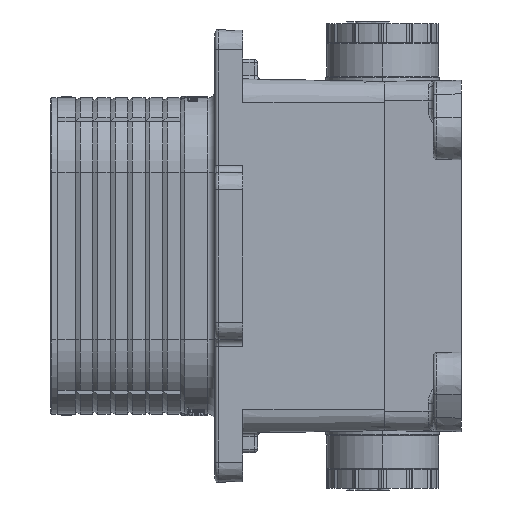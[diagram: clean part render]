
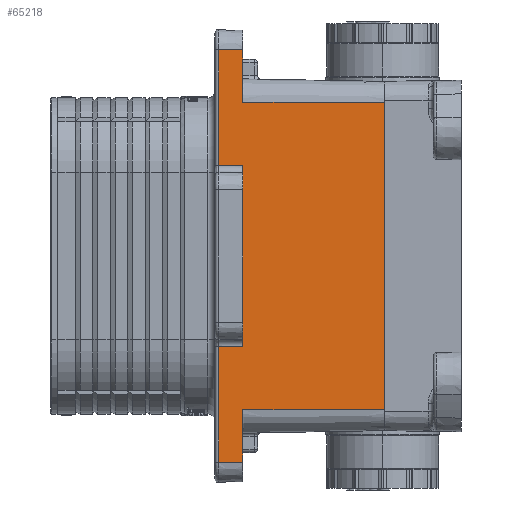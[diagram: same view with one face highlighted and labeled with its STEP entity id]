
A CAD part, left-side view. The second image highlights one B-rep face of the part: STEP entity #65218.
In plain terms, the highlighted planar face has unit normal (-1, -0.018, 0).
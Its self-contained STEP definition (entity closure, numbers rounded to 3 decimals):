
#4541=CARTESIAN_POINT('',(-30.,16.251,
-44.));
#4543=DIRECTION('',(0.,0.,1.));
#4544=VECTOR('',#4543,88.);
#4545=CARTESIAN_POINT('',(-30.,16.251,
-44.));
#4546=LINE('',#4545,#4544);
#4614=DIRECTION('',(-0.017,1.,0.));
#4615=VECTOR('',#4614,40.506);
#4616=CARTESIAN_POINT('',(-30.,16.251,
-44.));
#4617=LINE('',#4616,#4615);
#6167=DIRECTION('',(0.,0.,-1.));
#6168=VECTOR('',#6167,15.);
#6169=CARTESIAN_POINT('',(-30.707,56.751,59.));
#6170=LINE('',#6169,#6168);
#6213=DIRECTION('',(0.017,-1.,0.));
#6214=VECTOR('',#6213,6.984);
#6215=CARTESIAN_POINT('',(-30.829,63.734,
-59.));
#6216=LINE('',#6215,#6214);
#6217=DIRECTION('',(0.,0.,1.));
#6218=VECTOR('',#6217,33.018);
#6219=CARTESIAN_POINT('',(-30.829,63.734,
-59.));
#6220=LINE('',#6219,#6218);
#6221=DIRECTION('',(0.017,-1.,0.017));
#6222=VECTOR('',#6221,6.985);
#6223=CARTESIAN_POINT('',(-30.829,63.734,
-25.982));
#6224=LINE('',#6223,#6222);
#6225=DIRECTION('',(0.017,-1.,-0.017));
#6226=VECTOR('',#6225,5.502);
#6227=CARTESIAN_POINT('',(-30.803,62.251,
-20.869));
#6228=LINE('',#6227,#6226);
#6229=DIRECTION('',(0.017,-1.,0.017));
#6230=VECTOR('',#6229,5.502);
#6231=CARTESIAN_POINT('',(-30.803,62.251,20.869));
#6232=LINE('',#6231,#6230);
#6233=DIRECTION('',(-0.017,1.,0.017));
#6234=VECTOR('',#6233,6.985);
#6235=CARTESIAN_POINT('',(-30.707,56.751,25.86));
#6236=LINE('',#6235,#6234);
#6237=DIRECTION('',(0.,0.,1.));
#6238=VECTOR('',#6237,33.018);
#6239=CARTESIAN_POINT('',(-30.829,63.733,25.982));
#6240=LINE('',#6239,#6238);
#6241=DIRECTION('',(0.017,-1.,0.));
#6242=VECTOR('',#6241,6.984);
#6243=CARTESIAN_POINT('',(-30.829,63.733,59.));
#6244=LINE('',#6243,#6242);
#6245=DIRECTION('',(-0.017,1.,0.));
#6246=VECTOR('',#6245,40.506);
#6247=CARTESIAN_POINT('',(-30.,16.251,44.));
#6248=LINE('',#6247,#6246);
#6262=DIRECTION('',(0.,0.,1.));
#6263=VECTOR('',#6262,15.);
#6264=CARTESIAN_POINT('',(-30.707,56.751,
-59.));
#6265=LINE('',#6264,#6263);
#29585=CARTESIAN_POINT('',(-30.829,63.733,
25.982));
#29587=CARTESIAN_POINT('',(-30.707,56.751,
25.86));
#29601=DIRECTION('',(0.,0.,-1.));
#29602=VECTOR('',#29601,4.9);
#29603=CARTESIAN_POINT('',(-30.707,56.751,
-20.96));
#29604=LINE('',#29603,#29602);
#29619=DIRECTION('',(0.,0.,-1.));
#29620=VECTOR('',#29619,4.9);
#29621=CARTESIAN_POINT('',(-30.707,56.751,
25.86));
#29622=LINE('',#29621,#29620);
#30040=DIRECTION('',(0.,0.,-1.));
#30041=VECTOR('',#30040,41.737);
#30042=CARTESIAN_POINT('',(-30.803,62.251,
20.869));
#30043=LINE('',#30042,#30041);
#30075=CARTESIAN_POINT('',(-30.707,56.751,
-25.86));
#51262=CARTESIAN_POINT('',(-30.707,56.751,
-44.));
#51264=VERTEX_POINT('',#51262);
#52386=CARTESIAN_POINT('',(-30.707,56.751,
-59.));
#52388=VERTEX_POINT('',#52386);
#52430=CARTESIAN_POINT('',(-30.707,56.751,
59.));
#52432=VERTEX_POINT('',#52430);
#52433=CARTESIAN_POINT('',(-30.707,56.751,
44.));
#52434=VERTEX_POINT('',#52433);
#52670=VERTEX_POINT('',#29587);
#52671=VERTEX_POINT('',#30075);
#52718=CARTESIAN_POINT('',(-30.803,62.251,
20.869));
#52719=CARTESIAN_POINT('',(-30.707,56.751,
20.961));
#52720=VERTEX_POINT('',#52718);
#52721=VERTEX_POINT('',#52719);
#52731=CARTESIAN_POINT('',(-30.803,62.251,
-20.869));
#52733=VERTEX_POINT('',#52731);
#52768=CARTESIAN_POINT('',(-30.707,56.751,
-20.96));
#52769=VERTEX_POINT('',#52768);
#52860=CARTESIAN_POINT('',(-30.829,63.734,
-59.));
#52861=VERTEX_POINT('',#52860);
#52864=CARTESIAN_POINT('',(-30.829,63.734,
-25.982));
#52865=VERTEX_POINT('',#52864);
#52889=VERTEX_POINT('',#29585);
#52892=CARTESIAN_POINT('',(-30.829,63.733,
59.));
#52893=VERTEX_POINT('',#52892);
#53301=VERTEX_POINT('',#4541);
#53302=CARTESIAN_POINT('',(-30.,16.251,
44.));
#53303=VERTEX_POINT('',#53302);
#65184=CARTESIAN_POINT('',(-30.,16.251,
-44.));
#65185=DIRECTION('',(-1.,-0.017,0.));
#65186=DIRECTION('',(0.,0.,1.));
#65187=AXIS2_PLACEMENT_3D('',#65184,#65185,#65186);
#65188=PLANE('',#65187);
#65189=ORIENTED_EDGE('',*,*,#63078,.F.);
#65190=ORIENTED_EDGE('',*,*,#63121,.T.);
#65192=ORIENTED_EDGE('',*,*,#65191,.F.);
#65194=ORIENTED_EDGE('',*,*,#65193,.F.);
#65196=ORIENTED_EDGE('',*,*,#65195,.T.);
#65198=ORIENTED_EDGE('',*,*,#65197,.T.);
#65200=ORIENTED_EDGE('',*,*,#65199,.F.);
#65202=ORIENTED_EDGE('',*,*,#65201,.F.);
#65204=ORIENTED_EDGE('',*,*,#65203,.F.);
#65206=ORIENTED_EDGE('',*,*,#65205,.T.);
#65208=ORIENTED_EDGE('',*,*,#65207,.F.);
#65210=ORIENTED_EDGE('',*,*,#65209,.T.);
#65212=ORIENTED_EDGE('',*,*,#65211,.T.);
#65213=ORIENTED_EDGE('',*,*,#65179,.T.);
#65214=ORIENTED_EDGE('',*,*,#65117,.T.);
#65215=ORIENTED_EDGE('',*,*,#63054,.F.);
#65216=EDGE_LOOP('',(#65189,#65190,#65192,#65194,#65196,#65198,#65200,#65202,
#65204,#65206,#65208,#65210,#65212,#65213,#65214,#65215));
#65217=FACE_OUTER_BOUND('',#65216,.F.);
#65218=ADVANCED_FACE('',(#65217),#65188,.T.);
#63054=EDGE_CURVE('',#53303,#52434,#6248,.T.);
#63078=EDGE_CURVE('',#53301,#53303,#4546,.T.);
#63121=EDGE_CURVE('',#53301,#51264,#4617,.T.);
#65117=EDGE_CURVE('',#52432,#52434,#6170,.T.);
#65179=EDGE_CURVE('',#52893,#52432,#6244,.T.);
#65191=EDGE_CURVE('',#52388,#51264,#6265,.T.);
#65193=EDGE_CURVE('',#52861,#52388,#6216,.T.);
#65195=EDGE_CURVE('',#52861,#52865,#6220,.T.);
#65197=EDGE_CURVE('',#52865,#52671,#6224,.T.);
#65199=EDGE_CURVE('',#52769,#52671,#29604,.T.);
#65201=EDGE_CURVE('',#52733,#52769,#6228,.T.);
#65203=EDGE_CURVE('',#52720,#52733,#30043,.T.);
#65205=EDGE_CURVE('',#52720,#52721,#6232,.T.);
#65207=EDGE_CURVE('',#52670,#52721,#29622,.T.);
#65209=EDGE_CURVE('',#52670,#52889,#6236,.T.);
#65211=EDGE_CURVE('',#52889,#52893,#6240,.T.);
